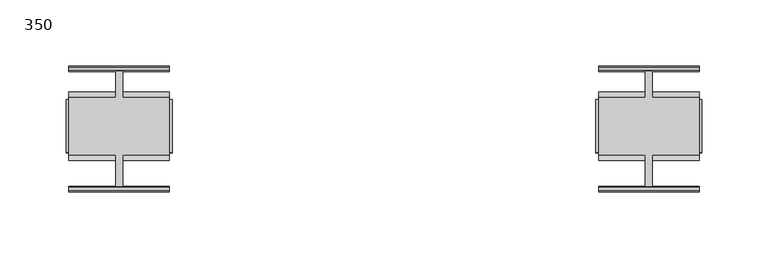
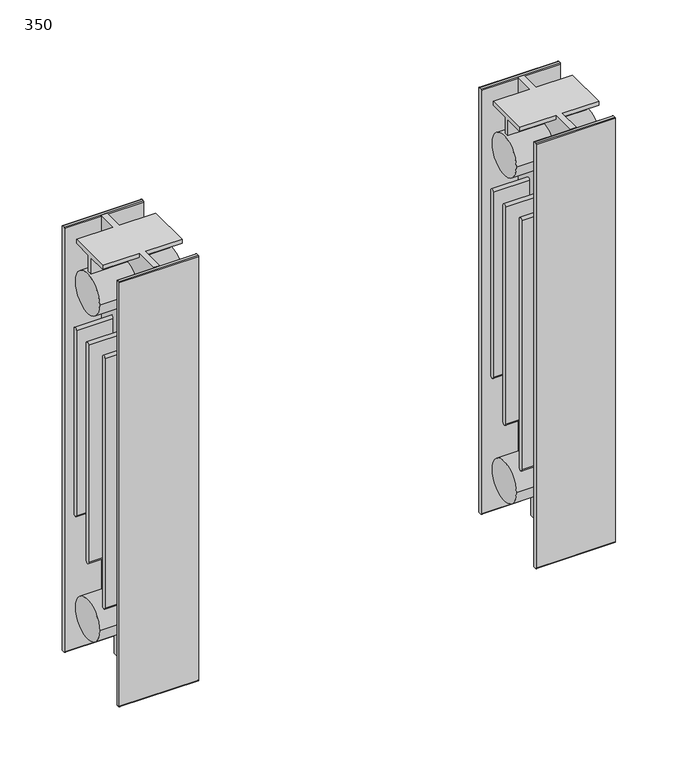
"""IFC4 building model written with IfcOpenShell, lengths in millimetres: flow terminal geometry, Radiators_Plus_EVO : 350."""

import ifcopenshell
import ifcopenshell.guid

model = None  # the IFC model being written
_history = None  # IfcOwnerHistory: only IFC2X3 demands one
_inside = {}  # id of a spatial element -> (the spatial element, [elements in it])
_under = {}  # id of a project, library or spatial element -> (it, [spatial elements below it])
_declared = {}  # id of a project -> (the project, [libraries it declares])
_typed = {}  # id of a type object -> (the type object, [elements of that type])
_made_of = {}  # id of a material, layer set ... -> (it, [elements and type objects made of it])


def new_model(schema):
    """Start an empty IFC model of exactly this schema.

    Asked for "IFC4X3", IfcOpenShell would pick the latest addendum, in which some entities
    have other attributes; the version numbers below select the first issue.
    IFC2X3 requires an IfcOwnerHistory on every rooted entity: one is made here for all.
    """
    global model, _history
    if schema == "IFC4X3":
        model = ifcopenshell.file(schema_version=(4, 3, 0, 0))
    else:
        model = ifcopenshell.file(schema=schema)
    _inside.clear()
    _under.clear()
    _declared.clear()
    _typed.clear()
    _made_of.clear()
    _history = None
    if model.schema == "IFC2X3":
        org = make("IfcOrganization", Name="unknown")
        user = make(
            "IfcPersonAndOrganization",
            ThePerson=make("IfcPerson", FamilyName="unknown"),
            TheOrganization=org,
        )
        app = make(
            "IfcApplication",
            ApplicationDeveloper=org,
            Version="unknown",
            ApplicationFullName="unknown",
            ApplicationIdentifier="unknown",
        )
        _history = make(
            "IfcOwnerHistory",
            OwningUser=user,
            OwningApplication=app,
            ChangeAction="ADDED",
            CreationDate=0,
        )
    return model


def make(cls, **values):
    """One entity of the class cls with the attributes given. An attribute that is None is left unset."""
    return model.create_entity(
        cls, **{name: value for name, value in values.items() if value is not None}
    )


def rooted(cls, **values):
    """An entity with a GlobalId (a new one), such as an element, a storey or a relation."""
    return make(cls, GlobalId=ifcopenshell.guid.new(), OwnerHistory=_history, **values)


def si_unit(unit_type, name, prefix=None):
    """IfcSIUnit, for example si_unit("LENGTHUNIT", "METRE", prefix="MILLI")."""
    return make("IfcSIUnit", UnitType=unit_type, Prefix=prefix, Name=name)


def assignment(units):
    """IfcUnitAssignment: the units of a project."""
    return None if units is None else make("IfcUnitAssignment", Units=units)


def point(xyz):
    """IfcCartesianPoint."""
    return None if xyz is None else make("IfcCartesianPoint", Coordinates=xyz)


def direction(xyz):
    """IfcDirection."""
    return None if xyz is None else make("IfcDirection", DirectionRatios=xyz)


def frame(location, z_axis=None, x_axis=None):
    """IfcAxis2Placement3D, a coordinate frame: its origin and axes. An axis left out is left unset."""
    return make(
        "IfcAxis2Placement3D",
        Location=point(location),
        Axis=direction(z_axis),
        RefDirection=direction(x_axis),
    )


def frame_2d(location, x_axis=None):
    """IfcAxis2Placement2D, a coordinate frame in the plane: its origin and x axis."""
    return make(
        "IfcAxis2Placement2D", Location=point(location), RefDirection=direction(x_axis)
    )


def origin():
    """The frame at (0, 0, 0) with its axes left unset."""
    return frame((0.0, 0.0, 0.0))


def place(relative_to, where):
    """IfcLocalPlacement: puts the frame where relative to a parent placement (None: the world)."""
    return make(
        "IfcLocalPlacement", PlacementRelTo=relative_to, RelativePlacement=where
    )


def context(
    kind, dimensions, precision=None, world=None, true_north=None, identifier=None
):
    """IfcGeometricRepresentationContext, for example the 3D "Model" context."""
    return make(
        "IfcGeometricRepresentationContext",
        ContextIdentifier=identifier,
        ContextType=kind,
        CoordinateSpaceDimension=dimensions,
        Precision=precision,
        WorldCoordinateSystem=world,
        TrueNorth=true_north,
    )


def project(units=None, contexts=None):
    """IfcProject with its units and contexts."""
    return rooted(
        "IfcProject",
        Name="project",
        RepresentationContexts=contexts,
        UnitsInContext=assignment(units),
    )


def spatial(cls, under=None, at=None, **own):
    """A site, building, storey or space (cls), placed at a placement, below another one or the project."""
    s = rooted(cls, ObjectPlacement=at, **own)
    if under is not None:
        _under.setdefault(under.id(), (under, []))[1].append(s)
    return s


def polyline(points):
    """IfcPolyline through the points."""
    return make("IfcPolyline", Points=[point(p) for p in points])


def circle_curve(where, radius):
    """IfcCircle in the frame where."""
    return make("IfcCircle", Position=where, Radius=radius)


def trimmed(basis, trim1, trim2, sense, master):
    """IfcTrimmedCurve: the piece of a basis curve between two trims."""
    return make(
        "IfcTrimmedCurve",
        BasisCurve=basis,
        Trim1=trim1,
        Trim2=trim2,
        SenseAgreement=sense,
        MasterRepresentation=master,
    )


def segment(curve, same_sense, transition):
    """IfcCompositeCurveSegment."""
    return make(
        "IfcCompositeCurveSegment",
        Transition=transition,
        SameSense=same_sense,
        ParentCurve=curve,
    )


def composite_curve(segments, self_intersect=None):
    """IfcCompositeCurve: segments joined end to end."""
    return make("IfcCompositeCurve", Segments=segments, SelfIntersect=self_intersect)


def outline(outer, holes=None, kind="AREA"):
    """IfcArbitraryClosedProfileDef: a profile drawn as a closed curve; with holes, ...WithVoids."""
    if holes is None:
        return make("IfcArbitraryClosedProfileDef", ProfileType=kind, OuterCurve=outer)
    return make(
        "IfcArbitraryProfileDefWithVoids",
        ProfileType=kind,
        OuterCurve=outer,
        InnerCurves=holes,
    )


def extrude(swept, where, along, depth):
    """IfcExtrudedAreaSolid: the profile swept, set in the frame where, extruded along a direction by depth."""
    return make(
        "IfcExtrudedAreaSolid",
        SweptArea=swept,
        Position=where,
        ExtrudedDirection=direction(along),
        Depth=depth,
    )


def shape(context_of_items, identifier, shape_type, items):
    """IfcShapeRepresentation: the items that make up one representation, for example the "Body"."""
    return make(
        "IfcShapeRepresentation",
        ContextOfItems=context_of_items,
        RepresentationIdentifier=identifier,
        RepresentationType=shape_type,
        Items=items,
    )


def source(mapping_origin, context_of_items, identifier, shape_type, items):
    """IfcRepresentationMap: a shape defined once, which mapped items show again and again."""
    return make(
        "IfcRepresentationMap",
        MappingOrigin=mapping_origin,
        MappedRepresentation=shape(context_of_items, identifier, shape_type, items),
    )


def transform(
    local_origin,
    x_axis=None,
    y_axis=None,
    z_axis=None,
    scale=None,
    scale2=None,
    scale3=None,
    uniform=True,
):
    """IfcCartesianTransformationOperator3D, or its non-uniform kind. x_axis, y_axis, z_axis: its Axis1, 2, 3."""
    if uniform:
        return make(
            "IfcCartesianTransformationOperator3D",
            Axis1=direction(x_axis),
            Axis2=direction(y_axis),
            LocalOrigin=point(local_origin),
            Scale=scale,
            Axis3=direction(z_axis),
        )
    return make(
        "IfcCartesianTransformationOperator3DnonUniform",
        Axis1=direction(x_axis),
        Axis2=direction(y_axis),
        LocalOrigin=point(local_origin),
        Scale=scale,
        Axis3=direction(z_axis),
        Scale2=scale2,
        Scale3=scale3,
    )


def mapped(mapping_source, mapping_target):
    """IfcMappedItem: shows the shape of a source again, moved by a transform."""
    return make(
        "IfcMappedItem", MappingSource=mapping_source, MappingTarget=mapping_target
    )


def made_of(thing, what):
    """Note that an element or type object is made of a material, layer set ...; save() writes the relation."""
    if what is not None:
        _made_of.setdefault(what.id(), (what, []))[1].append(thing)
    return thing


def element(
    cls,
    number,
    at=None,
    inside=None,
    cuts=None,
    type_object=None,
    material=None,
    context=None,
    identifier="Body",
    shape_type=None,
    held_by="IfcProductDefinitionShape",
    body=None,
    shapes=None,
    **own,
):
    """One element of the class cls, such as IfcWall. Its Tag is "e" and its number.

    at: its placement. inside: the storey or other place that contains it. cuts: it is an
    opening in that element (IfcRelVoidsElement). A single representation is given by context,
    identifier, shape_type and body (its items); several are given by shapes. held_by: the class
    of the entity that holds the representations. save() writes the other relations.
    """
    e = rooted(cls, Tag="e%d" % number, ObjectPlacement=at, **own)
    if body is not None:
        shapes = [shape(context, identifier, shape_type, body)]
    if shapes is not None:
        e.Representation = make(held_by, Representations=shapes)
    if inside is not None:
        _inside.setdefault(inside.id(), (inside, []))[1].append(e)
    if cuts is not None:
        rooted(
            "IfcRelVoidsElement", RelatingBuildingElement=cuts, RelatedOpeningElement=e
        )
    if type_object is not None:
        _typed.setdefault(type_object.id(), (type_object, []))[1].append(e)
    return made_of(e, material)


def aggregate(whole, parts):
    """IfcRelAggregates: a whole, such as a stair, and the parts it consists of."""
    return rooted("IfcRelAggregates", RelatingObject=whole, RelatedObjects=parts)


def save(model, path):
    """Write the relations noted so far, then the file.

    IfcRelAggregates (storeys below a building ...), IfcRelContainedInSpatialStructure (elements
    in a storey), IfcRelDefinesByType, IfcRelAssociatesMaterial and IfcRelDeclares: one each for
    every whole, place, type object, material and project.
    """
    for whole, parts in _under.values():
        aggregate(whole, parts)
    for where, things in _inside.values():
        rooted(
            "IfcRelContainedInSpatialStructure",
            RelatedElements=things,
            RelatingStructure=where,
        )
    for kind, things in _typed.values():
        rooted("IfcRelDefinesByType", RelatedObjects=things, RelatingType=kind)
    for what, things in _made_of.values():
        rooted("IfcRelAssociatesMaterial", RelatedObjects=things, RelatingMaterial=what)
    for by, libraries in _declared.values():
        rooted("IfcRelDeclares", RelatingContext=by, RelatedDefinitions=libraries)
    model.write(path)


def plane_surface(at):
    """IfcPlane: the flat surface through the origin of the frame at, square to its z axis."""
    return make("IfcPlane", Position=at)


def cylinder_surface(at, radius):
    """IfcCylindricalSurface: all points at the distance radius from the z axis of the frame at."""
    return make("IfcCylindricalSurface", Position=at, Radius=radius)


def advanced_brep(points, edges, surfaces, faces):
    """IfcAdvancedBrep: a solid bounded by faces that lie on surfaces and meet in shared edges.

    An edge is (start, end): straight between two places in points (the first is 0);
    or (start, end, curve); or (start, end, curve, False) where it runs against its curve.
    A face is (place in surfaces, loops), or (place, loops, False) where it looks against
    its surface's normal. A loop lists edges by number (the first is 1), with a minus sign
    where the edge is run from its end to its start. The first loop is the outer one.
    """
    corners = [point(p) for p in points]
    vertices = [make("IfcVertexPoint", VertexGeometry=c) for c in corners]
    made = []
    for start, end, *more in edges:
        made.append(
            make(
                "IfcEdgeCurve",
                EdgeStart=vertices[start],
                EdgeEnd=vertices[end],
                EdgeGeometry=more[0] if more else make("IfcPolyline", Points=[corners[start], corners[end]]),
                SameSense=more[1] if len(more) > 1 else True,
            )
        )
    hull = []
    for where, loops, *sense in faces:
        bounds = []
        for j, loop in enumerate(loops):
            ring = [make("IfcOrientedEdge", EdgeElement=made[abs(k) - 1], Orientation=k > 0) for k in loop]
            bounds.append(
                make(
                    "IfcFaceOuterBound" if j == 0 else "IfcFaceBound",
                    Bound=make("IfcEdgeLoop", EdgeList=ring),
                    Orientation=True,
                )
            )
        hull.append(make("IfcAdvancedFace", Bounds=bounds, FaceSurface=surfaces[where], SameSense=sense[0] if sense else True))
    return make("IfcAdvancedBrep", Outer=make("IfcClosedShell", CfsFaces=hull))


def flow_terminal_350_7fd5175a(model_context):
    return source(origin(), model_context, "Body", "SolidModel", [
        advanced_brep(
        [(480.0, -25.503125, 400.388638), (480.0, -65.503125, 400.388638), (400.0, -25.503125, 400.388638), (400.0, -65.503125, 400.388638), (442.7187498, -65.503125, 400.388638), (442.7187498, -25.503125, 400.388638), (437.2812502, -25.503125, 400.388638), (437.2812502, -65.503125, 400.388638), (442.7187498, -43.495241, 420.2875928), (478.0, -43.495241, 420.2875928), (478.0, -47.495241, 420.2891775), (442.7187498, -47.495241, 420.2891775), (437.2812502, -47.495241, 420.2891775), (402.0, -47.495241, 420.2891775), (402.0, -43.495241, 420.2875928), (437.2812502, -43.495241, 420.2875928), (478.0, -43.495241, 436.9849544), (478.0, -23.7570628, 436.9849544), (478.0, -23.7570628, 441.0), (478.0, -67.2491872, 441.0), (478.0, -67.2491872, 436.9849544), (478.0, -47.495241, 436.9849544), (402.0, -47.495241, 436.9849544), (402.0, -67.2491872, 436.9849544), (402.0, -67.2491872, 441.0), (402.0, -23.7570628, 441.0), (402.0, -23.7570628, 436.9849544), (402.0, -43.495241, 436.9849544), (442.7187498, -3.7880777, 441.0), (437.2812502, -3.7880777, 441.0), (437.2812502, -23.7570628, 441.0), (437.2812502, -67.2491872, 441.0), (437.2812502, -91.0, 441.0), (442.7187498, -91.0, 441.0), (442.7187498, -67.2491872, 441.0), (442.7187498, -23.7570628, 441.0), (442.7187498, -47.495241, 436.9849544), (437.2812502, -47.495241, 436.9849544), (442.7187498, -43.495241, 436.9849544), (437.2812502, -43.495241, 436.9849544), (442.7187498, -91.0, 10.0), (442.7187498, -74.066735, 30.9108407), (442.7187498, -65.495241, 30.9108407), (442.7187498, -65.495241, 10.0), (442.7187498, -25.495241, 10.0), (442.7187498, -25.495241, 30.9108407), (442.7187498, -8.0284548, 30.9108407), (442.7187498, -8.0284548, 37.9108407), (442.7187498, -4.0, 37.9108407), (442.7187498, -4.0, 440.2059516), (442.7187498, -3.7471759, 440.7895598), (442.7187498, -23.7570628, 436.9849544), (442.7187498, -67.2491872, 436.9849544), (442.7187498, -91.0, 440.2059516), (442.7187498, -91.0, 10.8), (437.2812502, -8.0284548, 37.9108407), (437.2812502, -8.0284548, 30.9108407), (437.2812502, -25.495241, 30.9108407), (437.2812502, -25.495241, 10.0), (437.2812502, -65.495241, 10.0), (437.2812502, -65.495241, 30.9108407), (437.2812502, -74.066735, 30.9108407), (437.2812502, -91.0, 10.0), (437.2812502, -91.0, 10.8), (437.2812502, -91.0, 440.2059516), (437.2812502, -67.2491872, 436.9849544), (437.2812502, -23.7570628, 436.9849544), (437.2812502, -3.7471759, 440.7895598), (437.2812502, -4.0, 440.2059516), (437.2812502, -4.0, 37.9108407), (478.0, 0.0, 440.2059516), (478.0, 0.0, 10.8), (402.0, 0.0, 10.8), (402.0, 0.0, 440.2059516), (478.0, -94.2, 441.0059516), (478.0, -95.0, 440.2059516), (478.0, -95.0, 10.8), (478.0, -94.2, 10.0), (478.0, -91.8, 10.0), (478.0, -91.0, 10.8), (478.0, -91.0, 440.2059516), (478.0, -91.8, 441.0059516), (402.0, -94.2, 441.0059516), (402.0, -91.8, 441.0059516), (402.0, -91.0, 440.2059516), (402.0, -91.0, 10.8), (402.0, -91.8, 10.0), (402.0, -94.2, 10.0), (402.0, -95.0, 10.8), (402.0, -95.0, 440.2059516), (478.0, -0.8, 441.0059516), (478.0, -3.2, 441.0059516), (478.0, -4.0, 440.2059516), (478.0, -4.0, 10.8), (478.0, -3.2, 10.0), (478.0, -0.8, 10.0), (402.0, -0.8, 10.0), (402.0, -3.2, 10.0), (402.0, -4.0, 10.8), (402.0, -4.0, 440.2059516), (402.0, -3.2, 441.0059516), (402.0, -0.8, 441.0059516)],
        [
            (0, 1, circle_curve(frame((480.0, -45.503125, 400.388638), z_axis=(1.0, 0.0, 0.0), x_axis=(0.0, -1.0, 0.0)), 20.0)),
            (1, 0, circle_curve(frame((480.0, -45.503125, 400.388638), z_axis=(1.0, 0.0, 0.0), x_axis=(0.0, -1.0, 0.0)), 20.0)),
            (2, 3, circle_curve(frame((400.0, -45.503125, 400.388638), z_axis=(-1.0, 0.0, 0.0), x_axis=(0.0, -1.0, 0.0)), 20.0)),
            (3, 2, circle_curve(frame((400.0, -45.503125, 400.388638), z_axis=(-1.0, 0.0, 0.0), x_axis=(0.0, -1.0, 0.0)), 20.0)),
            (1, 4),
            (4, 5, circle_curve(frame((442.7187498, -45.503125, 400.388638), z_axis=(1.0, 0.0, 0.0), x_axis=(0.0, -1.0, 0.0)), 20.0)),
            (5, 0),
            (2, 6),
            (6, 7, circle_curve(frame((437.2812502, -45.503125, 400.388638), z_axis=(-1.0, 0.0, 0.0), x_axis=(0.0, -1.0, 0.0)), 20.0)),
            (7, 3),
            (5, 8, circle_curve(frame((442.7187498, -45.503125, 400.388638), z_axis=(1.0, 0.0, 0.0), x_axis=(0.0, -1.0, 0.0)), 20.0)),
            (8, 9),
            (9, 10, circle_curve(frame((478.0, -45.503125, 400.388638), z_axis=(1.0, 0.0, 0.0), x_axis=(0.0, -1.0, 0.0)), 20.0)),
            (10, 11),
            (11, 4, circle_curve(frame((442.7187498, -45.503125, 400.388638), z_axis=(1.0, 0.0, 0.0), x_axis=(0.0, -1.0, 0.0)), 20.0)),
            (7, 12, circle_curve(frame((437.2812502, -45.503125, 400.388638), z_axis=(-1.0, 0.0, 0.0), x_axis=(0.0, -1.0, 0.0)), 20.0)),
            (12, 13),
            (13, 14, circle_curve(frame((402.0, -45.503125, 400.388638), z_axis=(-1.0, 0.0, 0.0), x_axis=(0.0, -1.0, 0.0)), 20.0)),
            (14, 15),
            (15, 6, circle_curve(frame((437.2812502, -45.503125, 400.388638), z_axis=(-1.0, 0.0, 0.0), x_axis=(0.0, -1.0, 0.0)), 20.0)),
            (9, 16),
            (16, 17),
            (17, 18),
            (18, 19),
            (19, 20),
            (20, 21),
            (21, 10),
            (13, 22),
            (22, 23),
            (23, 24),
            (24, 25),
            (25, 26),
            (26, 27),
            (27, 14),
            (28, 29),
            (29, 30),
            (30, 25),
            (24, 31),
            (31, 32),
            (32, 33),
            (33, 34),
            (34, 19),
            (18, 35),
            (35, 28),
            (21, 36),
            (36, 11),
            (12, 37),
            (37, 22),
            (8, 38),
            (38, 16),
            (27, 39),
            (39, 15),
            (40, 41),
            (41, 42),
            (42, 43),
            (43, 44),
            (44, 45),
            (45, 46),
            (46, 47),
            (47, 48),
            (48, 49),
            (49, 50, circle_curve(frame((442.7187498, -3.2, 440.2059516), z_axis=(-1.0, 0.0, 0.0), x_axis=(0.0, 1.0, 0.0)), 0.8)),
            (50, 28),
            (35, 51),
            (51, 38),
            (36, 52),
            (52, 34),
            (33, 53),
            (53, 54),
            (54, 40),
            (55, 56),
            (56, 57),
            (57, 58),
            (58, 59),
            (59, 60),
            (60, 61),
            (61, 62),
            (62, 63),
            (63, 64),
            (64, 32),
            (31, 65),
            (65, 37),
            (39, 66),
            (66, 30),
            (29, 67),
            (67, 68, circle_curve(frame((437.2812502, -3.2, 440.2059516), z_axis=(1.0, 0.0, 0.0), x_axis=(0.0, 1.0, 0.0)), 0.8)),
            (68, 69),
            (69, 55),
            (47, 55),
            (69, 48),
            (46, 56),
            (45, 57),
            (41, 61),
            (60, 42),
            (50, 67),
            (64, 53),
            (62, 40),
            (54, 63),
            (70, 71),
            (71, 72),
            (72, 73),
            (73, 70),
            (74, 75, circle_curve(frame((478.0, -94.2, 440.2059516), z_axis=(1.0, 0.0, 0.0), x_axis=(0.0, -1.0, 0.0)), 0.8)),
            (75, 76),
            (76, 77, circle_curve(frame((478.0, -94.2, 10.8), z_axis=(1.0, 0.0, 0.0), x_axis=(0.0, -1.0, 0.0)), 0.8)),
            (77, 78),
            (78, 79, circle_curve(frame((478.0, -91.8, 10.8), z_axis=(1.0, 0.0, 0.0), x_axis=(0.0, -1.0, 0.0)), 0.8)),
            (79, 80),
            (80, 81, circle_curve(frame((478.0, -91.8, 440.2059516), z_axis=(1.0, 0.0, 0.0), x_axis=(0.0, -1.0, 0.0)), 0.8)),
            (81, 74),
            (82, 83),
            (83, 84, circle_curve(frame((402.0, -91.8, 440.2059516), z_axis=(-1.0, 0.0, 0.0), x_axis=(0.0, -1.0, 0.0)), 0.8)),
            (84, 85),
            (85, 86, circle_curve(frame((402.0, -91.8, 10.8), z_axis=(-1.0, 0.0, 0.0), x_axis=(0.0, -1.0, 0.0)), 0.8)),
            (86, 87),
            (87, 88, circle_curve(frame((402.0, -94.2, 10.8), z_axis=(-1.0, 0.0, 0.0), x_axis=(0.0, -1.0, 0.0)), 0.8)),
            (88, 89),
            (89, 82, circle_curve(frame((402.0, -94.2, 440.2059516), z_axis=(-1.0, 0.0, 0.0), x_axis=(0.0, -1.0, 0.0)), 0.8)),
            (81, 83),
            (82, 74),
            (80, 53),
            (64, 84),
            (79, 54),
            (63, 85),
            (78, 86),
            (77, 87),
            (76, 88),
            (75, 89),
            (51, 17),
            (26, 66),
            (20, 52),
            (65, 23),
            (43, 59),
            (58, 44),
            (70, 90, circle_curve(frame((478.0, -0.8, 440.2059516), z_axis=(1.0, 0.0, 0.0), x_axis=(0.0, 1.0, 0.0)), 0.8)),
            (90, 91),
            (91, 92, circle_curve(frame((478.0, -3.2, 440.2059516), z_axis=(1.0, 0.0, 0.0), x_axis=(0.0, 1.0, 0.0)), 0.8)),
            (92, 93),
            (93, 94, circle_curve(frame((478.0, -3.2, 10.8), z_axis=(1.0, 0.0, 0.0), x_axis=(0.0, 1.0, 0.0)), 0.8)),
            (94, 95),
            (95, 71, circle_curve(frame((478.0, -0.8, 10.8), z_axis=(1.0, 0.0, 0.0), x_axis=(0.0, 1.0, 0.0)), 0.8)),
            (72, 96, circle_curve(frame((402.0, -0.8, 10.8), z_axis=(-1.0, 0.0, 0.0), x_axis=(0.0, 1.0, 0.0)), 0.8)),
            (96, 97),
            (97, 98, circle_curve(frame((402.0, -3.2, 10.8), z_axis=(-1.0, 0.0, 0.0), x_axis=(0.0, 1.0, 0.0)), 0.8)),
            (98, 99),
            (99, 100, circle_curve(frame((402.0, -3.2, 440.2059516), z_axis=(-1.0, 0.0, 0.0), x_axis=(0.0, 1.0, 0.0)), 0.8)),
            (100, 101),
            (101, 73, circle_curve(frame((402.0, -0.8, 440.2059516), z_axis=(-1.0, 0.0, 0.0), x_axis=(0.0, 1.0, 0.0)), 0.8)),
            (101, 90),
            (100, 91),
            (99, 68),
            (49, 92),
            (98, 93),
            (97, 94),
            (96, 95),
        ],
        [
            plane_surface(frame((480.0, -65.503125, 400.388638), z_axis=(1.0, 0.0, 0.0), x_axis=(0.0, 0.0, -1.0))),
            plane_surface(frame((400.0, -65.503125, 400.388638), z_axis=(-1.0, 0.0, 0.0), x_axis=(0.0, 0.0, 1.0))),
            cylinder_surface(frame((400.0, -45.503125, 400.388638), z_axis=(1.0, 0.0, 0.0), x_axis=(0.0, -1.0, 0.0)), 20.0),
            plane_surface(frame((478.0, -47.495241, 418.7073439), z_axis=(1.0, 0.0, 0.0), x_axis=(0.0, 0.0, -1.0))),
            plane_surface(frame((402.0, -47.495241, 418.7073439), z_axis=(-1.0, 0.0, 0.0), x_axis=(0.0, 0.0, 1.0))),
            plane_surface(frame((478.0, -43.495241, 441.0), z_axis=(0.0, 0.0, 1.0), x_axis=(-1.0, 0.0, 0.0))),
            plane_surface(frame((478.0, -47.495241, 441.0), z_axis=(0.0, -1.0, 0.0), x_axis=(-1.0, 0.0, 0.0))),
            plane_surface(frame((478.0, -43.495241, 418.7073439), z_axis=(0.0, 1.0, 0.0), x_axis=(-1.0, 0.0, 0.0))),
            plane_surface(frame((442.7187498, -91.0, 441.0), z_axis=(1.0, 0.0, 0.0), x_axis=(0.0, -1.0, 0.0))),
            plane_surface(frame((437.2812502, -91.0, 441.0), z_axis=(-1.0, 0.0, 0.0), x_axis=(0.0, 1.0, 0.0))),
            plane_surface(frame((442.7187498, -8.0284548, 37.9108407), z_axis=(0.0, 0.0, -1.0), x_axis=(-1.0, 0.0, 0.0))),
            plane_surface(frame((442.7187498, -8.0284548, 30.9108407), z_axis=(0.0, 1.0, 0.0), x_axis=(-1.0, 0.0, 0.0))),
            plane_surface(frame((442.7187498, -74.066735, 30.9108407), z_axis=(0.0, 0.0, -1.0), x_axis=(-1.0, 0.0, 0.0))),
            plane_surface(frame((442.7187498, -1.4796375, 429.1230619), z_axis=(0.0, 0.9816303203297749, 0.19079285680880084), x_axis=(-1.0, 0.0, 0.0))),
            plane_surface(frame((442.7187498, -91.0, 441.0), z_axis=(0.0, -1.0, 0.0), x_axis=(-1.0, 0.0, 0.0))),
            plane_surface(frame((442.7187498, -91.0, 10.0), z_axis=(0.0, 0.7771459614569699, -0.6293203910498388), x_axis=(-1.0, 0.0, 0.0))),
            plane_surface(frame((442.7187498, 0.0, 37.9108407), z_axis=(0.0, 1.0, 0.0), x_axis=(-1.0, 0.0, 0.0))),
            plane_surface(frame((478.0, -95.0, 440.2059516), z_axis=(1.0, 0.0, 0.0), x_axis=(0.0, 0.0, -1.0))),
            plane_surface(frame((402.0, -95.0, 440.2059516), z_axis=(-1.0, 0.0, 0.0), x_axis=(0.0, 0.0, 1.0))),
            plane_surface(frame((478.0, -91.8, 441.0059516), z_axis=(0.0, 0.0, 1.0), x_axis=(-1.0, 0.0, 0.0))),
            cylinder_surface(frame((402.0, -91.8, 440.2059516), z_axis=(1.0, 0.0, 0.0), x_axis=(0.0, -1.0, 0.0)), 0.8),
            plane_surface(frame((478.0, -91.0, 10.8), z_axis=(0.0, 1.0, 0.0), x_axis=(-1.0, 0.0, 0.0))),
            cylinder_surface(frame((402.0, -91.8, 10.8), z_axis=(1.0, 0.0, 0.0), x_axis=(0.0, -1.0, 0.0)), 0.8),
            plane_surface(frame((478.0, -94.2, 10.0), z_axis=(0.0, 0.0, -1.0), x_axis=(-1.0, 0.0, 0.0))),
            cylinder_surface(frame((402.0, -94.2, 10.8), z_axis=(1.0, 0.0, 0.0), x_axis=(0.0, -1.0, 0.0)), 0.8),
            plane_surface(frame((478.0, -95.0, 440.2059516), z_axis=(0.0, -1.0, 0.0), x_axis=(-1.0, 0.0, 0.0))),
            cylinder_surface(frame((402.0, -94.2, 440.2059516), z_axis=(1.0, 0.0, 0.0), x_axis=(0.0, -1.0, 0.0)), 0.8),
            plane_surface(frame((442.7187498, -23.7570628, 436.9849544), z_axis=(0.0, 0.0, -1.0), x_axis=(1.0, 0.0, 0.0))),
            plane_surface(frame((478.0, -23.7570628, 441.0), z_axis=(0.0, 1.0, 0.0), x_axis=(0.0, 0.0, -1.0))),
            plane_surface(frame((442.7187498, -67.2491872, 441.0), z_axis=(0.0, -1.0, 0.0), x_axis=(0.0, 0.0, -1.0))),
            plane_surface(frame((402.0, -67.2491872, 441.0), z_axis=(0.0, -1.0, 0.0), x_axis=(0.0, 0.0, -1.0))),
            plane_surface(frame((442.7187498, -65.495241, 10.0), z_axis=(0.0, 0.0, -1.0), x_axis=(-1.0, 0.0, 0.0))),
            plane_surface(frame((442.7187498, -25.495241, 10.0), z_axis=(0.0, 1.0, 0.0), x_axis=(-1.0, 0.0, 0.0))),
            plane_surface(frame((442.7187498, -65.495241, 69.9984662), z_axis=(0.0, -1.0, 0.0), x_axis=(-1.0, 0.0, 0.0))),
            plane_surface(frame((478.0, 0.0, 440.2059516), z_axis=(1.0, 0.0, 0.0), x_axis=(0.0, 0.0, 1.0))),
            plane_surface(frame((402.0, 0.0, 440.2059516), z_axis=(-1.0, 0.0, 0.0), x_axis=(0.0, 0.0, -1.0))),
            cylinder_surface(frame((402.0, -0.8, 440.2059516), z_axis=(1.0, 0.0, 0.0), x_axis=(0.0, 1.0, 0.0)), 0.8),
            plane_surface(frame((478.0, -0.8, 441.0059516), z_axis=(0.0, 0.0, 1.0), x_axis=(-1.0, 0.0, 0.0))),
            cylinder_surface(frame((402.0, -3.2, 440.2059516), z_axis=(1.0, 0.0, 0.0), x_axis=(0.0, 1.0, 0.0)), 0.8),
            plane_surface(frame((478.0, -4.0, 440.2059516), z_axis=(0.0, -1.0, 0.0), x_axis=(-1.0, 0.0, 0.0))),
            cylinder_surface(frame((402.0, -3.2, 10.8), z_axis=(1.0, 0.0, 0.0), x_axis=(0.0, 1.0, 0.0)), 0.8),
            plane_surface(frame((478.0, -3.2, 10.0), z_axis=(0.0, 0.0, -1.0), x_axis=(-1.0, 0.0, 0.0))),
            cylinder_surface(frame((402.0, -0.8, 10.8), z_axis=(1.0, 0.0, 0.0), x_axis=(0.0, 1.0, 0.0)), 0.8),
        ],
        [
            (0, [[1, 2]]),
            (1, [[3, 4]]),
            (2, [[-2, 5, 6, 7]]),
            (2, [[-3, 8, 9, 10]]),
            (2, [[-1, -7, 11, 12, 13, 14, 15, -5]]),
            (2, [[-4, -10, 16, 17, 18, 19, 20, -8]]),
            (3, [[-13, 21, 22, 23, 24, 25, 26, 27]]),
            (4, [[-18, 28, 29, 30, 31, 32, 33, 34]]),
            (5, [[35, 36, 37, -31, 38, 39, 40, 41, 42, -24, 43, 44]]),
            (6, [[-14, -27, 45, 46]]),
            (6, [[-17, 47, 48, -28]]),
            (7, [[-12, 49, 50, -21]]),
            (7, [[-19, -34, 51, 52]]),
            (8, [[53, 54, 55, 56, 57, 58, 59, 60, 61, 62, 63, -44, 64, 65, -49, -11, -6, -15, -46, 66, 67, -41, 68, 69, 70]]),
            (9, [[71, 72, 73, 74, 75, 76, 77, 78, 79, 80, -39, 81, 82, -47, -16, -9, -20, -52, 83, 84, -36, 85, 86, 87, 88]]),
            (10, [[89, -88, 90, -60]]),
            (11, [[-59, 91, -71, -89]]),
            (12, [[-91, -58, 92, -72]]),
            (12, [[93, -76, 94, -54]]),
            (13, [[-35, -63, 95, -85]]),
            (14, [[-40, -80, 96, -68]]),
            (14, [[97, -70, 98, -78]]),
            (15, [[-53, -97, -77, -93]]),
            (16, [[99, 100, 101, 102]]),
            (17, [[103, 104, 105, 106, 107, 108, 109, 110]]),
            (18, [[111, 112, 113, 114, 115, 116, 117, 118]]),
            (19, [[-110, 119, -111, 120]]),
            (20, [[-109, 121, -96, 122, -112, -119]]),
            (21, [[-108, 123, -69, -121]]),
            (21, [[-113, -122, -79, 124]]),
            (22, [[-107, 125, -114, -124, -98, -123]]),
            (23, [[-106, 126, -115, -125]]),
            (24, [[-105, 127, -116, -126]]),
            (25, [[-104, 128, -117, -127]]),
            (26, [[-103, -120, -118, -128]]),
            (27, [[-22, -50, -65, 129]]),
            (27, [[-33, 130, -83, -51]]),
            (27, [[131, -66, -45, -26]]),
            (27, [[132, -29, -48, -82]]),
            (28, [[-32, -37, -84, -130]]),
            (28, [[-23, -129, -64, -43]]),
            (29, [[-42, -67, -131, -25]]),
            (30, [[-38, -30, -132, -81]]),
            (31, [[-56, 133, -74, 134]]),
            (32, [[-134, -73, -92, -57]]),
            (33, [[-133, -55, -94, -75]]),
            (34, [[135, 136, 137, 138, 139, 140, 141, -99]]),
            (35, [[-101, 142, 143, 144, 145, 146, 147, 148]]),
            (36, [[-135, -102, -148, 149]]),
            (37, [[-136, -149, -147, 150]]),
            (38, [[-137, -150, -146, 151, -86, -95, -62, 152]]),
            (39, [[-138, -152, -61, -90, -87, -151, -145, 153]]),
            (40, [[-139, -153, -144, 154]]),
            (41, [[-140, -154, -143, 155]]),
            (42, [[-141, -155, -142, -100]]),
        ],
    ),
        extrude(outline(composite_curve([segment(trimmed(circle_curve(frame_2d((-45.495241, 69.9984662)), 20.0), [point((-25.495241, 69.9984662))], [point((-65.495241, 69.9984662))], False, "CARTESIAN"), True, "CONTINUOUS"), segment(trimmed(circle_curve(frame_2d((-45.495241, 69.9984662)), 20.0), [point((-65.495241, 69.9984662))], [point((-25.495241, 69.9984662))], False, "CARTESIAN"), True, "CONTINUOUS")], self_intersect=False)), frame((400.0, 0.0, 0.0), z_axis=(1.0, 0.0, 0.0), x_axis=(0.0, 1.0, 0.0)), (0.0, 0.0, 1.0), 80.0),
        extrude(outline(composite_curve([segment(trimmed(circle_curve(frame_2d((-69.2421244, 96.0436136)), 2.0), [point((-67.2421244, 96.0436136))], [point((-71.2421244, 96.0436136))], False, "CARTESIAN"), True, "CONTINUOUS"), segment(polyline([(-71.2421244, 96.0436136), (-71.2421244, 348.635473)]), True, "CONTINUOUS"), segment(trimmed(circle_curve(frame_2d((-69.2421244, 348.635473)), 2.0), [point((-71.2421244, 348.635473))], [point((-67.2421244, 348.635473))], False, "CARTESIAN"), True, "CONTINUOUS"), segment(polyline([(-67.2421244, 348.635473), (-67.2421244, 96.0436136)]), True, "CONTINUOUS")], self_intersect=False)), frame((402.0, 0.0, 0.0), z_axis=(1.0, 0.0, 0.0), x_axis=(0.0, 1.0, 0.0)), (0.0, 0.0, 1.0), 76.0),
        extrude(outline(composite_curve([segment(trimmed(circle_curve(frame_2d((-45.503125, 128.5759611)), 2.0), [point((-43.503125, 128.5759611))], [point((-47.503125, 128.5759611))], False, "CARTESIAN"), True, "CONTINUOUS"), segment(polyline([(-47.503125, 128.5759611), (-47.503125, 348.635473)]), True, "CONTINUOUS"), segment(trimmed(circle_curve(frame_2d((-45.503125, 348.635473)), 2.0), [point((-47.503125, 348.635473))], [point((-43.503125, 348.635473))], False, "CARTESIAN"), True, "CONTINUOUS"), segment(polyline([(-43.503125, 348.635473), (-43.503125, 128.5759611)]), True, "CONTINUOUS")], self_intersect=False)), frame((400.0, 0.0, 0.0), z_axis=(1.0, 0.0, 0.0), x_axis=(0.0, 1.0, 0.0)), (0.0, 0.0, 1.0), 80.0),
        extrude(outline(composite_curve([segment(trimmed(circle_curve(frame_2d((-21.75, 161.0607738)), 2.0), [point((-19.75, 161.0607738))], [point((-23.75, 161.0607738))], False, "CARTESIAN"), True, "CONTINUOUS"), segment(polyline([(-23.75, 161.0607738), (-23.75, 348.635473)]), True, "CONTINUOUS"), segment(trimmed(circle_curve(frame_2d((-21.75, 348.635473)), 2.0), [point((-23.75, 348.635473))], [point((-19.75, 348.635473))], False, "CARTESIAN"), True, "CONTINUOUS"), segment(polyline([(-19.75, 348.635473), (-19.75, 161.0607738)]), True, "CONTINUOUS")], self_intersect=False)), frame((402.0, 0.0, 0.0), z_axis=(1.0, 0.0, 0.0), x_axis=(0.0, 1.0, 0.0)), (0.0, 0.0, 1.0), 76.0),
        advanced_brep(
        [(80.0, -25.503125, 400.388638), (80.0, -65.503125, 400.388638), (0.0, -25.503125, 400.388638), (0.0, -65.503125, 400.388638), (42.7187498, -65.503125, 400.388638), (42.7187498, -25.503125, 400.388638), (37.2812502, -25.503125, 400.388638), (37.2812502, -65.503125, 400.388638), (42.7187498, -43.495241, 420.2875928), (78.0, -43.495241, 420.2875928), (78.0, -47.495241, 420.2891775), (42.7187498, -47.495241, 420.2891775), (37.2812502, -47.495241, 420.2891775), (2.0, -47.495241, 420.2891775), (2.0, -43.495241, 420.2875928), (37.2812502, -43.495241, 420.2875928), (78.0, -43.495241, 436.9849544), (78.0, -23.7570628, 436.9849544), (78.0, -23.7570628, 441.0), (78.0, -67.2491872, 441.0), (78.0, -67.2491872, 436.9849544), (78.0, -47.495241, 436.9849544), (2.0, -47.495241, 436.9849544), (2.0, -67.2491872, 436.9849544), (2.0, -67.2491872, 441.0), (2.0, -23.7570628, 441.0), (2.0, -23.7570628, 436.9849544), (2.0, -43.495241, 436.9849544), (42.7187498, -3.7880777, 441.0), (37.2812502, -3.7880777, 441.0), (37.2812502, -23.7570628, 441.0), (37.2812502, -67.2491872, 441.0), (37.2812502, -91.0, 441.0), (42.7187498, -91.0, 441.0), (42.7187498, -67.2491872, 441.0), (42.7187498, -23.7570628, 441.0), (42.7187498, -47.495241, 436.9849544), (37.2812502, -47.495241, 436.9849544), (42.7187498, -43.495241, 436.9849544), (37.2812502, -43.495241, 436.9849544), (42.7187498, -91.0, 10.0), (42.7187498, -74.066735, 30.9108407), (42.7187498, -65.495241, 30.9108407), (42.7187498, -65.495241, 10.0), (42.7187498, -25.495241, 10.0), (42.7187498, -25.495241, 30.9108407), (42.7187498, -8.0284548, 30.9108407), (42.7187498, -8.0284548, 37.9108407), (42.7187498, -4.0, 37.9108407), (42.7187498, -4.0, 440.2059516), (42.7187498, -3.7471759, 440.7895598), (42.7187498, -23.7570628, 436.9849544), (42.7187498, -67.2491872, 436.9849544), (42.7187498, -91.0, 440.2059516), (42.7187498, -91.0, 10.8), (37.2812502, -8.0284548, 37.9108407), (37.2812502, -8.0284548, 30.9108407), (37.2812502, -25.495241, 30.9108407), (37.2812502, -25.495241, 10.0), (37.2812502, -65.495241, 10.0), (37.2812502, -65.495241, 30.9108407), (37.2812502, -74.066735, 30.9108407), (37.2812502, -91.0, 10.0), (37.2812502, -91.0, 10.8), (37.2812502, -91.0, 440.2059516), (37.2812502, -67.2491872, 436.9849544), (37.2812502, -23.7570628, 436.9849544), (37.2812502, -3.7471759, 440.7895598), (37.2812502, -4.0, 440.2059516), (37.2812502, -4.0, 37.9108407), (78.0, 0.0, 440.2059516), (78.0, 0.0, 10.8), (2.0, 0.0, 10.8), (2.0, 0.0, 440.2059516), (78.0, -94.2, 441.0059516), (78.0, -95.0, 440.2059516), (78.0, -95.0, 10.8), (78.0, -94.2, 10.0), (78.0, -91.8, 10.0), (78.0, -91.0, 10.8), (78.0, -91.0, 440.2059516), (78.0, -91.8, 441.0059516), (2.0, -94.2, 441.0059516), (2.0, -91.8, 441.0059516), (2.0, -91.0, 440.2059516), (2.0, -91.0, 10.8), (2.0, -91.8, 10.0), (2.0, -94.2, 10.0), (2.0, -95.0, 10.8), (2.0, -95.0, 440.2059516), (78.0, -0.8, 441.0059516), (78.0, -3.2, 441.0059516), (78.0, -4.0, 440.2059516), (78.0, -4.0, 10.8), (78.0, -3.2, 10.0), (78.0, -0.8, 10.0), (2.0, -0.8, 10.0), (2.0, -3.2, 10.0), (2.0, -4.0, 10.8), (2.0, -4.0, 440.2059516), (2.0, -3.2, 441.0059516), (2.0, -0.8, 441.0059516)],
        [
            (0, 1, circle_curve(frame((80.0, -45.503125, 400.388638), z_axis=(1.0, 0.0, 0.0), x_axis=(0.0, -1.0, 0.0)), 20.0)),
            (1, 0, circle_curve(frame((80.0, -45.503125, 400.388638), z_axis=(1.0, 0.0, 0.0), x_axis=(0.0, -1.0, 0.0)), 20.0)),
            (2, 3, circle_curve(frame((0.0, -45.503125, 400.388638), z_axis=(-1.0, 0.0, 0.0), x_axis=(0.0, -1.0, 0.0)), 20.0)),
            (3, 2, circle_curve(frame((0.0, -45.503125, 400.388638), z_axis=(-1.0, 0.0, 0.0), x_axis=(0.0, -1.0, 0.0)), 20.0)),
            (1, 4),
            (4, 5, circle_curve(frame((42.7187498, -45.503125, 400.388638), z_axis=(1.0, 0.0, 0.0), x_axis=(0.0, -1.0, 0.0)), 20.0)),
            (5, 0),
            (2, 6),
            (6, 7, circle_curve(frame((37.2812502, -45.503125, 400.388638), z_axis=(-1.0, 0.0, 0.0), x_axis=(0.0, -1.0, 0.0)), 20.0)),
            (7, 3),
            (5, 8, circle_curve(frame((42.7187498, -45.503125, 400.388638), z_axis=(1.0, 0.0, 0.0), x_axis=(0.0, -1.0, 0.0)), 20.0)),
            (8, 9),
            (9, 10, circle_curve(frame((78.0, -45.503125, 400.388638), z_axis=(1.0, 0.0, 0.0), x_axis=(0.0, -1.0, 0.0)), 20.0)),
            (10, 11),
            (11, 4, circle_curve(frame((42.7187498, -45.503125, 400.388638), z_axis=(1.0, 0.0, 0.0), x_axis=(0.0, -1.0, 0.0)), 20.0)),
            (7, 12, circle_curve(frame((37.2812502, -45.503125, 400.388638), z_axis=(-1.0, 0.0, 0.0), x_axis=(0.0, -1.0, 0.0)), 20.0)),
            (12, 13),
            (13, 14, circle_curve(frame((2.0, -45.503125, 400.388638), z_axis=(-1.0, 0.0, 0.0), x_axis=(0.0, -1.0, 0.0)), 20.0)),
            (14, 15),
            (15, 6, circle_curve(frame((37.2812502, -45.503125, 400.388638), z_axis=(-1.0, 0.0, 0.0), x_axis=(0.0, -1.0, 0.0)), 20.0)),
            (9, 16),
            (16, 17),
            (17, 18),
            (18, 19),
            (19, 20),
            (20, 21),
            (21, 10),
            (13, 22),
            (22, 23),
            (23, 24),
            (24, 25),
            (25, 26),
            (26, 27),
            (27, 14),
            (28, 29),
            (29, 30),
            (30, 25),
            (24, 31),
            (31, 32),
            (32, 33),
            (33, 34),
            (34, 19),
            (18, 35),
            (35, 28),
            (21, 36),
            (36, 11),
            (12, 37),
            (37, 22),
            (8, 38),
            (38, 16),
            (27, 39),
            (39, 15),
            (40, 41),
            (41, 42),
            (42, 43),
            (43, 44),
            (44, 45),
            (45, 46),
            (46, 47),
            (47, 48),
            (48, 49),
            (49, 50, circle_curve(frame((42.7187498, -3.2, 440.2059516), z_axis=(-1.0, 0.0, 0.0), x_axis=(0.0, 1.0, 0.0)), 0.8)),
            (50, 28),
            (35, 51),
            (51, 38),
            (36, 52),
            (52, 34),
            (33, 53),
            (53, 54),
            (54, 40),
            (55, 56),
            (56, 57),
            (57, 58),
            (58, 59),
            (59, 60),
            (60, 61),
            (61, 62),
            (62, 63),
            (63, 64),
            (64, 32),
            (31, 65),
            (65, 37),
            (39, 66),
            (66, 30),
            (29, 67),
            (67, 68, circle_curve(frame((37.2812502, -3.2, 440.2059516), z_axis=(1.0, 0.0, 0.0), x_axis=(0.0, 1.0, 0.0)), 0.8)),
            (68, 69),
            (69, 55),
            (47, 55),
            (69, 48),
            (46, 56),
            (45, 57),
            (41, 61),
            (60, 42),
            (50, 67),
            (64, 53),
            (62, 40),
            (54, 63),
            (70, 71),
            (71, 72),
            (72, 73),
            (73, 70),
            (74, 75, circle_curve(frame((78.0, -94.2, 440.2059516), z_axis=(1.0, 0.0, 0.0), x_axis=(0.0, -1.0, 0.0)), 0.8)),
            (75, 76),
            (76, 77, circle_curve(frame((78.0, -94.2, 10.8), z_axis=(1.0, 0.0, 0.0), x_axis=(0.0, -1.0, 0.0)), 0.8)),
            (77, 78),
            (78, 79, circle_curve(frame((78.0, -91.8, 10.8), z_axis=(1.0, 0.0, 0.0), x_axis=(0.0, -1.0, 0.0)), 0.8)),
            (79, 80),
            (80, 81, circle_curve(frame((78.0, -91.8, 440.2059516), z_axis=(1.0, 0.0, 0.0), x_axis=(0.0, -1.0, 0.0)), 0.8)),
            (81, 74),
            (82, 83),
            (83, 84, circle_curve(frame((2.0, -91.8, 440.2059516), z_axis=(-1.0, 0.0, 0.0), x_axis=(0.0, -1.0, 0.0)), 0.8)),
            (84, 85),
            (85, 86, circle_curve(frame((2.0, -91.8, 10.8), z_axis=(-1.0, 0.0, 0.0), x_axis=(0.0, -1.0, 0.0)), 0.8)),
            (86, 87),
            (87, 88, circle_curve(frame((2.0, -94.2, 10.8), z_axis=(-1.0, 0.0, 0.0), x_axis=(0.0, -1.0, 0.0)), 0.8)),
            (88, 89),
            (89, 82, circle_curve(frame((2.0, -94.2, 440.2059516), z_axis=(-1.0, 0.0, 0.0), x_axis=(0.0, -1.0, 0.0)), 0.8)),
            (81, 83),
            (82, 74),
            (80, 53),
            (64, 84),
            (79, 54),
            (63, 85),
            (78, 86),
            (77, 87),
            (76, 88),
            (75, 89),
            (51, 17),
            (26, 66),
            (20, 52),
            (65, 23),
            (43, 59),
            (58, 44),
            (70, 90, circle_curve(frame((78.0, -0.8, 440.2059516), z_axis=(1.0, 0.0, 0.0), x_axis=(0.0, 1.0, 0.0)), 0.8)),
            (90, 91),
            (91, 92, circle_curve(frame((78.0, -3.2, 440.2059516), z_axis=(1.0, 0.0, 0.0), x_axis=(0.0, 1.0, 0.0)), 0.8)),
            (92, 93),
            (93, 94, circle_curve(frame((78.0, -3.2, 10.8), z_axis=(1.0, 0.0, 0.0), x_axis=(0.0, 1.0, 0.0)), 0.8)),
            (94, 95),
            (95, 71, circle_curve(frame((78.0, -0.8, 10.8), z_axis=(1.0, 0.0, 0.0), x_axis=(0.0, 1.0, 0.0)), 0.8)),
            (72, 96, circle_curve(frame((2.0, -0.8, 10.8), z_axis=(-1.0, 0.0, 0.0), x_axis=(0.0, 1.0, 0.0)), 0.8)),
            (96, 97),
            (97, 98, circle_curve(frame((2.0, -3.2, 10.8), z_axis=(-1.0, 0.0, 0.0), x_axis=(0.0, 1.0, 0.0)), 0.8)),
            (98, 99),
            (99, 100, circle_curve(frame((2.0, -3.2, 440.2059516), z_axis=(-1.0, 0.0, 0.0), x_axis=(0.0, 1.0, 0.0)), 0.8)),
            (100, 101),
            (101, 73, circle_curve(frame((2.0, -0.8, 440.2059516), z_axis=(-1.0, 0.0, 0.0), x_axis=(0.0, 1.0, 0.0)), 0.8)),
            (101, 90),
            (100, 91),
            (99, 68),
            (49, 92),
            (98, 93),
            (97, 94),
            (96, 95),
        ],
        [
            plane_surface(frame((80.0, -65.503125, 400.388638), z_axis=(1.0, 0.0, 0.0), x_axis=(0.0, 0.0, -1.0))),
            plane_surface(frame((0.0, -65.503125, 400.388638), z_axis=(-1.0, 0.0, 0.0), x_axis=(0.0, 0.0, 1.0))),
            cylinder_surface(frame((0.0, -45.503125, 400.388638), z_axis=(1.0, 0.0, 0.0), x_axis=(0.0, -1.0, 0.0)), 20.0),
            plane_surface(frame((78.0, -47.495241, 418.7073439), z_axis=(1.0, 0.0, 0.0), x_axis=(0.0, 0.0, -1.0))),
            plane_surface(frame((2.0, -47.495241, 418.7073439), z_axis=(-1.0, 0.0, 0.0), x_axis=(0.0, 0.0, 1.0))),
            plane_surface(frame((78.0, -43.495241, 441.0), z_axis=(0.0, 0.0, 1.0), x_axis=(-1.0, 0.0, 0.0))),
            plane_surface(frame((78.0, -47.495241, 441.0), z_axis=(0.0, -1.0, 0.0), x_axis=(-1.0, 0.0, 0.0))),
            plane_surface(frame((78.0, -43.495241, 418.7073439), z_axis=(0.0, 1.0, 0.0), x_axis=(-1.0, 0.0, 0.0))),
            plane_surface(frame((42.7187498, -91.0, 441.0), z_axis=(1.0, 0.0, 0.0), x_axis=(0.0, -1.0, 0.0))),
            plane_surface(frame((37.2812502, -91.0, 441.0), z_axis=(-1.0, 0.0, 0.0), x_axis=(0.0, 1.0, 0.0))),
            plane_surface(frame((42.7187498, -8.0284548, 37.9108407), z_axis=(0.0, 0.0, -1.0), x_axis=(-1.0, 0.0, 0.0))),
            plane_surface(frame((42.7187498, -8.0284548, 30.9108407), z_axis=(0.0, 1.0, 0.0), x_axis=(-1.0, 0.0, 0.0))),
            plane_surface(frame((42.7187498, -74.066735, 30.9108407), z_axis=(0.0, 0.0, -1.0), x_axis=(-1.0, 0.0, 0.0))),
            plane_surface(frame((42.7187498, -1.4796375, 429.1230619), z_axis=(0.0, 0.9816303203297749, 0.19079285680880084), x_axis=(-1.0, 0.0, 0.0))),
            plane_surface(frame((42.7187498, -91.0, 441.0), z_axis=(0.0, -1.0, 0.0), x_axis=(-1.0, 0.0, 0.0))),
            plane_surface(frame((42.7187498, -91.0, 10.0), z_axis=(0.0, 0.7771459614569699, -0.6293203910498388), x_axis=(-1.0, 0.0, 0.0))),
            plane_surface(frame((42.7187498, 0.0, 37.9108407), z_axis=(0.0, 1.0, 0.0), x_axis=(-1.0, 0.0, 0.0))),
            plane_surface(frame((78.0, -95.0, 440.2059516), z_axis=(1.0, 0.0, 0.0), x_axis=(0.0, 0.0, -1.0))),
            plane_surface(frame((2.0, -95.0, 440.2059516), z_axis=(-1.0, 0.0, 0.0), x_axis=(0.0, 0.0, 1.0))),
            plane_surface(frame((78.0, -91.8, 441.0059516), z_axis=(0.0, 0.0, 1.0), x_axis=(-1.0, 0.0, 0.0))),
            cylinder_surface(frame((2.0, -91.8, 440.2059516), z_axis=(1.0, 0.0, 0.0), x_axis=(0.0, -1.0, 0.0)), 0.8),
            plane_surface(frame((78.0, -91.0, 10.8), z_axis=(0.0, 1.0, 0.0), x_axis=(-1.0, 0.0, 0.0))),
            cylinder_surface(frame((2.0, -91.8, 10.8), z_axis=(1.0, 0.0, 0.0), x_axis=(0.0, -1.0, 0.0)), 0.8),
            plane_surface(frame((78.0, -94.2, 10.0), z_axis=(0.0, 0.0, -1.0), x_axis=(-1.0, 0.0, 0.0))),
            cylinder_surface(frame((2.0, -94.2, 10.8), z_axis=(1.0, 0.0, 0.0), x_axis=(0.0, -1.0, 0.0)), 0.8),
            plane_surface(frame((78.0, -95.0, 440.2059516), z_axis=(0.0, -1.0, 0.0), x_axis=(-1.0, 0.0, 0.0))),
            cylinder_surface(frame((2.0, -94.2, 440.2059516), z_axis=(1.0, 0.0, 0.0), x_axis=(0.0, -1.0, 0.0)), 0.8),
            plane_surface(frame((42.7187498, -23.7570628, 436.9849544), z_axis=(0.0, 0.0, -1.0), x_axis=(1.0, 0.0, 0.0))),
            plane_surface(frame((78.0, -23.7570628, 441.0), z_axis=(0.0, 1.0, 0.0), x_axis=(0.0, 0.0, -1.0))),
            plane_surface(frame((42.7187498, -67.2491872, 441.0), z_axis=(0.0, -1.0, 0.0), x_axis=(0.0, 0.0, -1.0))),
            plane_surface(frame((2.0, -67.2491872, 441.0), z_axis=(0.0, -1.0, 0.0), x_axis=(0.0, 0.0, -1.0))),
            plane_surface(frame((42.7187498, -65.495241, 10.0), z_axis=(0.0, 0.0, -1.0), x_axis=(-1.0, 0.0, 0.0))),
            plane_surface(frame((42.7187498, -25.495241, 10.0), z_axis=(0.0, 1.0, 0.0), x_axis=(-1.0, 0.0, 0.0))),
            plane_surface(frame((42.7187498, -65.495241, 69.9984662), z_axis=(0.0, -1.0, 0.0), x_axis=(-1.0, 0.0, 0.0))),
            plane_surface(frame((78.0, 0.0, 440.2059516), z_axis=(1.0, 0.0, 0.0), x_axis=(0.0, 0.0, 1.0))),
            plane_surface(frame((2.0, 0.0, 440.2059516), z_axis=(-1.0, 0.0, 0.0), x_axis=(0.0, 0.0, -1.0))),
            cylinder_surface(frame((2.0, -0.8, 440.2059516), z_axis=(1.0, 0.0, 0.0), x_axis=(0.0, 1.0, 0.0)), 0.8),
            plane_surface(frame((78.0, -0.8, 441.0059516), z_axis=(0.0, 0.0, 1.0), x_axis=(-1.0, 0.0, 0.0))),
            cylinder_surface(frame((2.0, -3.2, 440.2059516), z_axis=(1.0, 0.0, 0.0), x_axis=(0.0, 1.0, 0.0)), 0.8),
            plane_surface(frame((78.0, -4.0, 440.2059516), z_axis=(0.0, -1.0, 0.0), x_axis=(-1.0, 0.0, 0.0))),
            cylinder_surface(frame((2.0, -3.2, 10.8), z_axis=(1.0, 0.0, 0.0), x_axis=(0.0, 1.0, 0.0)), 0.8),
            plane_surface(frame((78.0, -3.2, 10.0), z_axis=(0.0, 0.0, -1.0), x_axis=(-1.0, 0.0, 0.0))),
            cylinder_surface(frame((2.0, -0.8, 10.8), z_axis=(1.0, 0.0, 0.0), x_axis=(0.0, 1.0, 0.0)), 0.8),
        ],
        [
            (0, [[1, 2]]),
            (1, [[3, 4]]),
            (2, [[-2, 5, 6, 7]]),
            (2, [[-3, 8, 9, 10]]),
            (2, [[-1, -7, 11, 12, 13, 14, 15, -5]]),
            (2, [[-4, -10, 16, 17, 18, 19, 20, -8]]),
            (3, [[-13, 21, 22, 23, 24, 25, 26, 27]]),
            (4, [[-18, 28, 29, 30, 31, 32, 33, 34]]),
            (5, [[35, 36, 37, -31, 38, 39, 40, 41, 42, -24, 43, 44]]),
            (6, [[-14, -27, 45, 46]]),
            (6, [[-17, 47, 48, -28]]),
            (7, [[-12, 49, 50, -21]]),
            (7, [[-19, -34, 51, 52]]),
            (8, [[53, 54, 55, 56, 57, 58, 59, 60, 61, 62, 63, -44, 64, 65, -49, -11, -6, -15, -46, 66, 67, -41, 68, 69, 70]]),
            (9, [[71, 72, 73, 74, 75, 76, 77, 78, 79, 80, -39, 81, 82, -47, -16, -9, -20, -52, 83, 84, -36, 85, 86, 87, 88]]),
            (10, [[89, -88, 90, -60]]),
            (11, [[-59, 91, -71, -89]]),
            (12, [[-91, -58, 92, -72]]),
            (12, [[93, -76, 94, -54]]),
            (13, [[-35, -63, 95, -85]]),
            (14, [[-40, -80, 96, -68]]),
            (14, [[97, -70, 98, -78]]),
            (15, [[-53, -97, -77, -93]]),
            (16, [[99, 100, 101, 102]]),
            (17, [[103, 104, 105, 106, 107, 108, 109, 110]]),
            (18, [[111, 112, 113, 114, 115, 116, 117, 118]]),
            (19, [[-110, 119, -111, 120]]),
            (20, [[-109, 121, -96, 122, -112, -119]]),
            (21, [[-108, 123, -69, -121]]),
            (21, [[-113, -122, -79, 124]]),
            (22, [[-107, 125, -114, -124, -98, -123]]),
            (23, [[-106, 126, -115, -125]]),
            (24, [[-105, 127, -116, -126]]),
            (25, [[-104, 128, -117, -127]]),
            (26, [[-103, -120, -118, -128]]),
            (27, [[-22, -50, -65, 129]]),
            (27, [[-33, 130, -83, -51]]),
            (27, [[131, -66, -45, -26]]),
            (27, [[132, -29, -48, -82]]),
            (28, [[-32, -37, -84, -130]]),
            (28, [[-23, -129, -64, -43]]),
            (29, [[-42, -67, -131, -25]]),
            (30, [[-38, -30, -132, -81]]),
            (31, [[-56, 133, -74, 134]]),
            (32, [[-134, -73, -92, -57]]),
            (33, [[-133, -55, -94, -75]]),
            (34, [[135, 136, 137, 138, 139, 140, 141, -99]]),
            (35, [[-101, 142, 143, 144, 145, 146, 147, 148]]),
            (36, [[-135, -102, -148, 149]]),
            (37, [[-136, -149, -147, 150]]),
            (38, [[-137, -150, -146, 151, -86, -95, -62, 152]]),
            (39, [[-138, -152, -61, -90, -87, -151, -145, 153]]),
            (40, [[-139, -153, -144, 154]]),
            (41, [[-140, -154, -143, 155]]),
            (42, [[-141, -155, -142, -100]]),
        ],
    ),
        extrude(outline(composite_curve([segment(trimmed(circle_curve(frame_2d((-45.495241, 69.9984662)), 20.0), [point((-25.495241, 69.9984662))], [point((-65.495241, 69.9984662))], False, "CARTESIAN"), True, "CONTINUOUS"), segment(trimmed(circle_curve(frame_2d((-45.495241, 69.9984662)), 20.0), [point((-65.495241, 69.9984662))], [point((-25.495241, 69.9984662))], False, "CARTESIAN"), True, "CONTINUOUS")], self_intersect=False)), frame((0.0, 0.0, 0.0), z_axis=(1.0, 0.0, 0.0), x_axis=(0.0, 1.0, 0.0)), (0.0, 0.0, 1.0), 80.0),
        extrude(outline(composite_curve([segment(trimmed(circle_curve(frame_2d((-69.2421244, 96.0436136)), 2.0), [point((-67.2421244, 96.0436136))], [point((-71.2421244, 96.0436136))], False, "CARTESIAN"), True, "CONTINUOUS"), segment(polyline([(-71.2421244, 96.0436136), (-71.2421244, 348.635473)]), True, "CONTINUOUS"), segment(trimmed(circle_curve(frame_2d((-69.2421244, 348.635473)), 2.0), [point((-71.2421244, 348.635473))], [point((-67.2421244, 348.635473))], False, "CARTESIAN"), True, "CONTINUOUS"), segment(polyline([(-67.2421244, 348.635473), (-67.2421244, 96.0436136)]), True, "CONTINUOUS")], self_intersect=False)), frame((2.0, 0.0, 0.0), z_axis=(1.0, 0.0, 0.0), x_axis=(0.0, 1.0, 0.0)), (0.0, 0.0, 1.0), 76.0),
        extrude(outline(composite_curve([segment(trimmed(circle_curve(frame_2d((-45.503125, 128.5759611)), 2.0), [point((-43.503125, 128.5759611))], [point((-47.503125, 128.5759611))], False, "CARTESIAN"), True, "CONTINUOUS"), segment(polyline([(-47.503125, 128.5759611), (-47.503125, 348.635473)]), True, "CONTINUOUS"), segment(trimmed(circle_curve(frame_2d((-45.503125, 348.635473)), 2.0), [point((-47.503125, 348.635473))], [point((-43.503125, 348.635473))], False, "CARTESIAN"), True, "CONTINUOUS"), segment(polyline([(-43.503125, 348.635473), (-43.503125, 128.5759611)]), True, "CONTINUOUS")], self_intersect=False)), frame((0.0, 0.0, 0.0), z_axis=(1.0, 0.0, 0.0), x_axis=(0.0, 1.0, 0.0)), (0.0, 0.0, 1.0), 80.0),
        extrude(outline(composite_curve([segment(trimmed(circle_curve(frame_2d((-21.75, 161.0607738)), 2.0), [point((-19.75, 161.0607738))], [point((-23.75, 161.0607738))], False, "CARTESIAN"), True, "CONTINUOUS"), segment(polyline([(-23.75, 161.0607738), (-23.75, 348.635473)]), True, "CONTINUOUS"), segment(trimmed(circle_curve(frame_2d((-21.75, 348.635473)), 2.0), [point((-23.75, 348.635473))], [point((-19.75, 348.635473))], False, "CARTESIAN"), True, "CONTINUOUS"), segment(polyline([(-19.75, 348.635473), (-19.75, 161.0607738)]), True, "CONTINUOUS")], self_intersect=False)), frame((2.0, 0.0, 0.0), z_axis=(1.0, 0.0, 0.0), x_axis=(0.0, 1.0, 0.0)), (0.0, 0.0, 1.0), 76.0),
    ])


if __name__ == "__main__":
    model = new_model("IFC4")
    model_context = context("Model", 3, world=origin())
    ifc_project = project(units=[si_unit("LENGTHUNIT", "METRE", prefix="MILLI")], contexts=[model_context])
    site = spatial("IfcSite", under=ifc_project)
    building = spatial("IfcBuilding", under=site)
    placement = place(None, origin())
    flow_terminal_350_shape = flow_terminal_350_7fd5175a(model_context)
    element("IfcFlowTerminal", 1, ObjectType="Radiators_Plus_EVO : 350", at=placement, inside=building, context=model_context, shape_type="MappedRepresentation", body=[
        mapped(flow_terminal_350_shape, transform((0.0, 0.0, 0.0), x_axis=(1.0, 0.0, 0.0), y_axis=(0.0, 1.0, 0.0), z_axis=(0.0, 0.0, 1.0))),
    ])
    save(model, "model.ifc")
